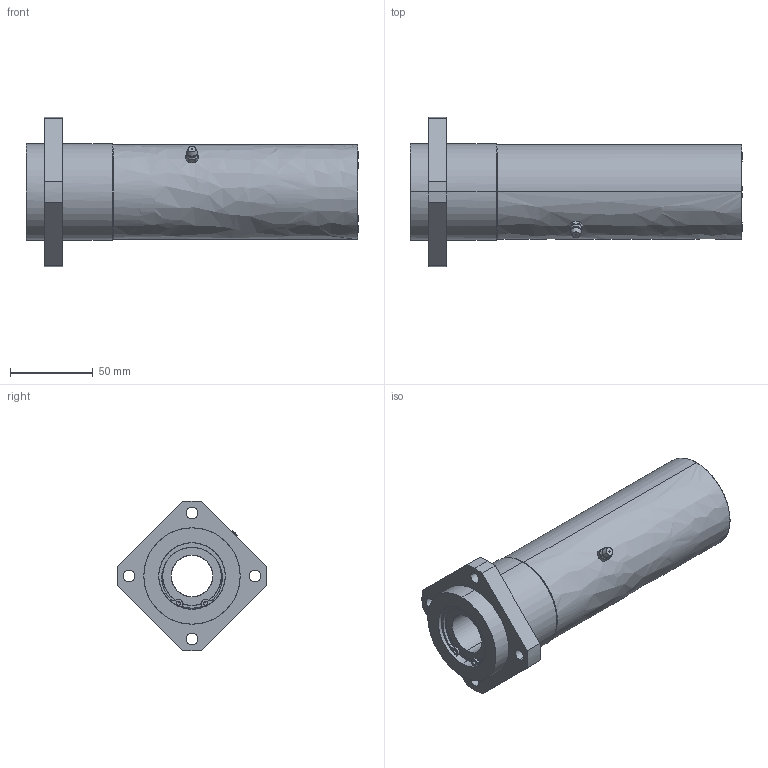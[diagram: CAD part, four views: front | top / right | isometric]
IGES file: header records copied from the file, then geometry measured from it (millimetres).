
Global section: file name: No Iges File Name specified; native system: AutoDesk Inventor R10; preprocessor: AutoDesk Inventor Iges Exporter R10; author: No Author specified; organization: No Organization specified; date: 20101214.141219; units: millimetre
Bounding box: 200 x 89.99 x 90 mm (x, y, z)
Surface area: 69505.7 mm2 (no closed solid volume)
Topology: 0 solids, 0 shells, 162 faces, 1143 edges, 1141 vertices
Faces by surface type: bspline 162
